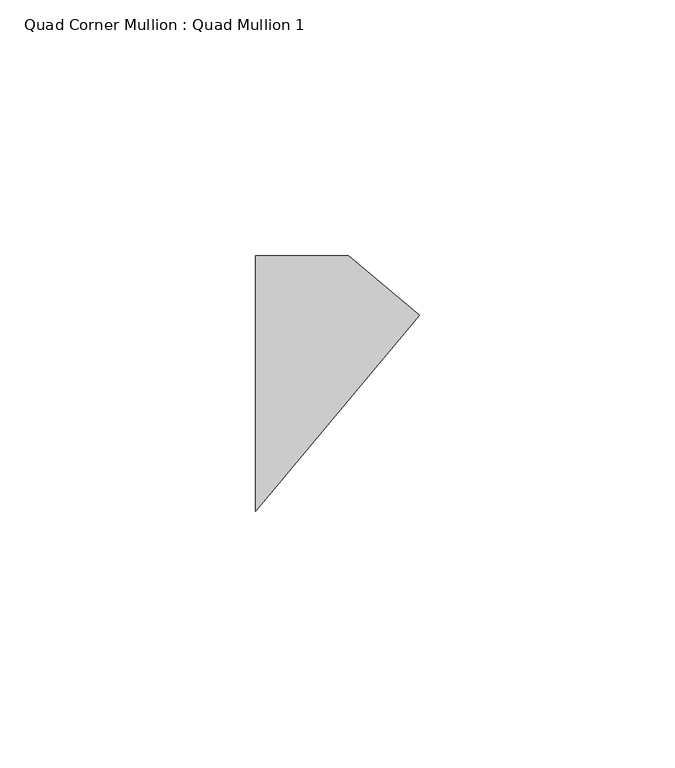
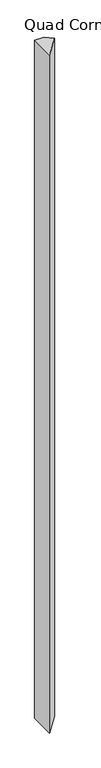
"""IFC4 building model written with IfcOpenShell, lengths in millimetres: member geometry, Quad Corner Mullion : Quad Mullion 1."""

from ifc_helpers import new_model, si_unit, frame, origin, place, context, project, spatial, polyline, outline, extrude, source, transform, mapped, element, save


def quad_corner_mullion_quad_mullion_1_646d0ba9(model_context):
    return source(origin(), model_context, "Body", "SweptSolid", [
        extrude(outline(polyline([(23.0401246, 13.3022222), (-9.0992559, -25.0), (-9.0992559, 25.0), (9.0992559, 25.0), (23.0401246, 13.3022222)])), frame((0.0, 0.0, -1400.0), z_axis=(0.0, 0.0, 1.0), x_axis=(1.0, 0.0, 0.0)), (0.0, 0.0, 1.0), 1400.0),
    ])


if __name__ == "__main__":
    model = new_model("IFC4")
    model_context = context("Model", 3, world=origin())
    ifc_project = project(units=[si_unit("LENGTHUNIT", "METRE", prefix="MILLI")], contexts=[model_context])
    site = spatial("IfcSite", under=ifc_project)
    building = spatial("IfcBuilding", under=site)
    placement = place(None, origin())
    quad_corner_mullion_quad_mullion_1_shape = quad_corner_mullion_quad_mullion_1_646d0ba9(model_context)
    element("IfcMember", 1, ObjectType="Quad Corner Mullion : Quad Mullion 1", at=placement, inside=building, context=model_context, shape_type="MappedRepresentation", body=[
        mapped(quad_corner_mullion_quad_mullion_1_shape, transform((0.0, 0.0, 0.0), x_axis=(1.0, 0.0, 0.0), y_axis=(0.0, 1.0, 0.0), z_axis=(0.0, 0.0, 1.0))),
    ])
    save(model, "model.ifc")
